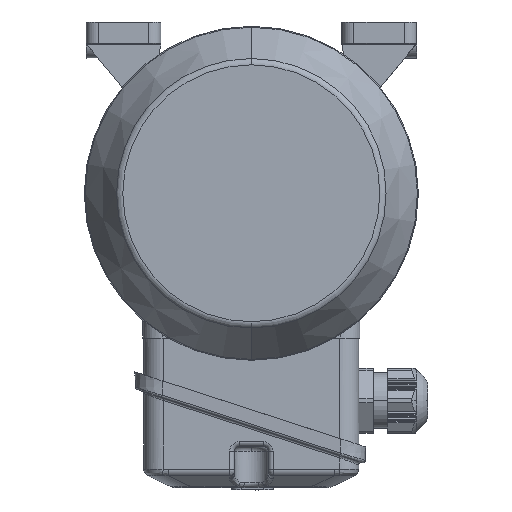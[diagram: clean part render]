
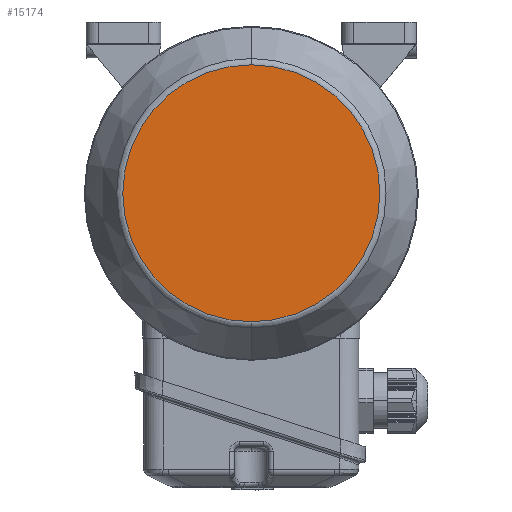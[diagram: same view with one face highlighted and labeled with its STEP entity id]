
A CAD part, left-side view. The second image highlights one B-rep face of the part: STEP entity #15174.
In plain terms, the highlighted planar face has unit normal (-1, 0, 0).
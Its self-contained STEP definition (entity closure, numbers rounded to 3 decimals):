
#12 = AXIS2_PLACEMENT_3D ( 'NONE', #7201, #20433, #19588 ) ;
#1047 = AXIS2_PLACEMENT_3D ( 'NONE', #8726, #20936, #21946 ) ;
#7201 = CARTESIAN_POINT ( 'NONE',  ( -121.25, 0., -53.268 ) ) ;
#8726 = CARTESIAN_POINT ( 'NONE',  ( -121.25, 0., 0. ) ) ;
#9728 = DIRECTION ( 'NONE',  ( 1., 0., 0. ) ) ;
#12804 = CIRCLE ( 'NONE', #1047, 53.268 ) ;
#15174 = ADVANCED_FACE ( 'NONE', ( #23670 ), #36854, .T. ) ;
#15836 = CARTESIAN_POINT ( 'NONE',  ( -121.25, 0., 0. ) ) ;
#18278 = ORIENTED_EDGE ( 'NONE', *, *, #29833, .F. ) ;
#19351 = EDGE_CURVE ( 'NONE', #23253, #27865, #20777, .T. ) ;
#19588 = DIRECTION ( 'NONE',  ( 0., 1., 0. ) ) ;
#20433 = DIRECTION ( 'NONE',  ( -1., 0., 0. ) ) ;
#20777 = CIRCLE ( 'NONE', #26297, 53.268 ) ;
#20936 = DIRECTION ( 'NONE',  ( 1., 0., 0. ) ) ;
#21946 = DIRECTION ( 'NONE',  ( 0., 0., -1. ) ) ;
#23253 = VERTEX_POINT ( 'NONE', #34346 ) ;
#23670 = FACE_OUTER_BOUND ( 'NONE', #34272, .T. ) ;
#26297 = AXIS2_PLACEMENT_3D ( 'NONE', #15836, #9728, #32043 ) ;
#26977 = CARTESIAN_POINT ( 'NONE',  ( -121.25, 0., -53.268 ) ) ;
#27865 = VERTEX_POINT ( 'NONE', #26977 ) ;
#29833 = EDGE_CURVE ( 'NONE', #27865, #23253, #12804, .T. ) ;
#32043 = DIRECTION ( 'NONE',  ( 0., 0., -1. ) ) ;
#34272 = EDGE_LOOP ( 'NONE', ( #18278, #40711 ) ) ;
#34346 = CARTESIAN_POINT ( 'NONE',  ( -121.25, 0., 53.268 ) ) ;
#36854 = PLANE ( 'NONE',  #12 ) ;
#40711 = ORIENTED_EDGE ( 'NONE', *, *, #19351, .F. ) ;
